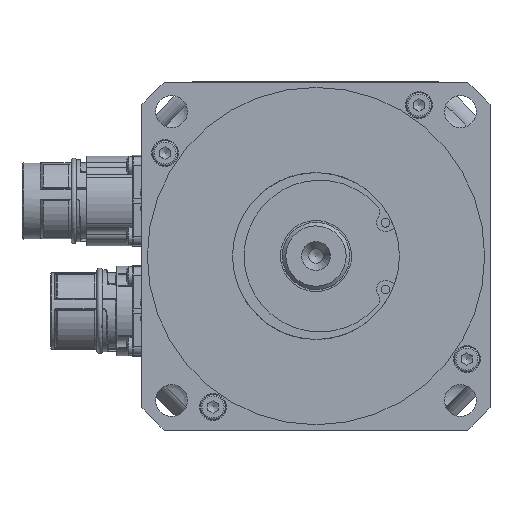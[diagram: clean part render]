
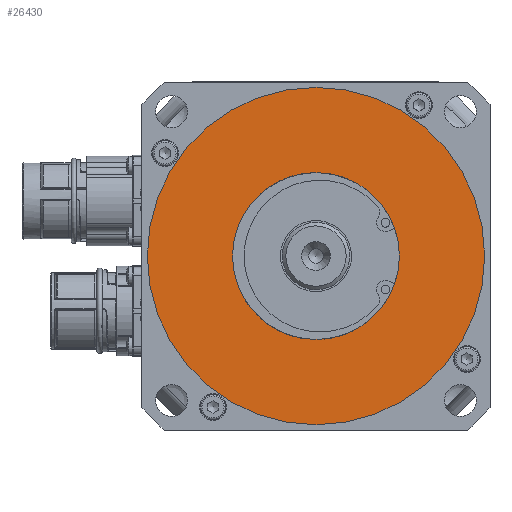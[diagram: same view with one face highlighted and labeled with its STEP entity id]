
A CAD part, left-side view. The second image highlights one B-rep face of the part: STEP entity #26430.
In plain terms, the highlighted planar face has unit normal (-1, 0, 0).
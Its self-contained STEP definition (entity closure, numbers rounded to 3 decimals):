
#1221=FACE_BOUND('',#8413,.T.);
#6660=FACE_OUTER_BOUND('',#8412,.T.);
#8412=EDGE_LOOP('',(#18728));
#8413=EDGE_LOOP('',(#18729));
#10400=CIRCLE('',#28286,23.5);
#10441=CIRCLE('',#28353,47.5);
#12266=VERTEX_POINT('',#40254);
#12315=VERTEX_POINT('',#40388);
#14732=EDGE_CURVE('',#12266,#12266,#10400,.T.);
#14791=EDGE_CURVE('',#12315,#12315,#10441,.T.);
#18728=ORIENTED_EDGE('',*,*,#14791,.T.);
#18729=ORIENTED_EDGE('',*,*,#14732,.F.);
#25892=PLANE('',#28354);
#26430=ADVANCED_FACE('',(#6660,#1221),#25892,.F.);
#28286=AXIS2_PLACEMENT_3D('',#40255,#32027,#32028);
#28353=AXIS2_PLACEMENT_3D('',#40389,#32179,#32180);
#28354=AXIS2_PLACEMENT_3D('',#40390,#32181,#32182);
#32027=DIRECTION('center_axis',(-1.,0.,0.));
#32028=DIRECTION('ref_axis',(0.,1.,0.));
#32179=DIRECTION('center_axis',(-1.,0.,0.));
#32180=DIRECTION('ref_axis',(0.,0.,1.));
#32181=DIRECTION('center_axis',(1.,0.,0.));
#32182=DIRECTION('ref_axis',(0.,0.,-1.));
#40254=CARTESIAN_POINT('',(-37.394,-23.5,0.));
#40255=CARTESIAN_POINT('Origin',(-37.394,0.,
0.));
#40388=CARTESIAN_POINT('',(-37.394,47.5,0.));
#40389=CARTESIAN_POINT('Origin',(-37.394,0.,
0.));
#40390=CARTESIAN_POINT('Origin',(-37.394,47.5,0.));
